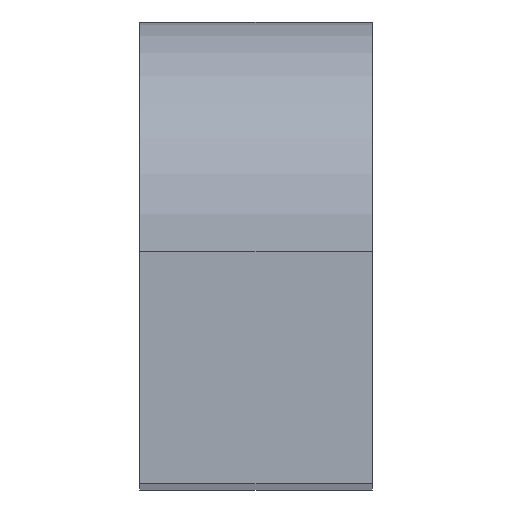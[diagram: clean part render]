
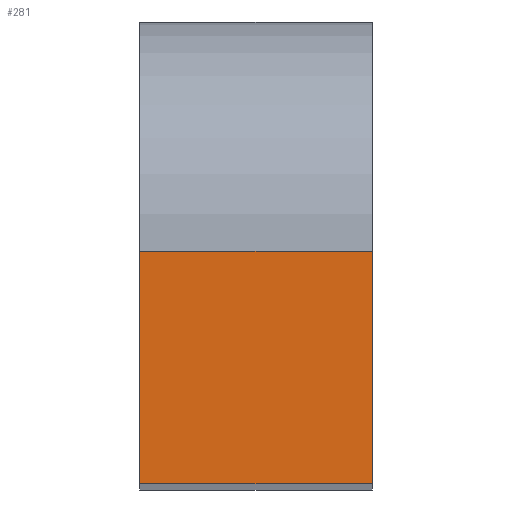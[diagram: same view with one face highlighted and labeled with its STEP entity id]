
A CAD part, top view. The second image highlights one B-rep face of the part: STEP entity #281.
In plain terms, the highlighted planar face has unit normal (0, 0, 1).
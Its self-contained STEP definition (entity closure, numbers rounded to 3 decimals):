
#5 = DIRECTION ( 'NONE',  ( 0., 1., 0. ) ) ;
#7 = LINE ( 'NONE', #258, #140 ) ;
#9 = FACE_OUTER_BOUND ( 'NONE', #143, .T. ) ;
#51 = DIRECTION ( 'NONE',  ( 1., 0., 0. ) ) ;
#57 = ORIENTED_EDGE ( 'NONE', *, *, #269, .T. ) ;
#92 = ORIENTED_EDGE ( 'NONE', *, *, #282, .T. ) ;
#96 = VECTOR ( 'NONE', #321, 1000. ) ;
#98 = VECTOR ( 'NONE', #51, 1000. ) ;
#100 = CARTESIAN_POINT ( 'NONE',  ( 0., 0., 31. ) ) ;
#102 = DIRECTION ( 'NONE',  ( -1., 0., 0. ) ) ;
#104 = DIRECTION ( 'NONE',  ( 0., 0., -1. ) ) ;
#105 = EDGE_CURVE ( 'NONE', #188, #238, #265, .T. ) ;
#124 = LINE ( 'NONE', #168, #225 ) ;
#125 = PLANE ( 'NONE',  #152 ) ;
#128 = DIRECTION ( 'NONE',  ( -1., 0., 0. ) ) ;
#140 = VECTOR ( 'NONE', #102, 1000. ) ;
#143 = EDGE_LOOP ( 'NONE', ( #159, #92, #291, #57 ) ) ;
#151 = CARTESIAN_POINT ( 'NONE',  ( 2., 0., 31. ) ) ;
#152 = AXIS2_PLACEMENT_3D ( 'NONE', #100, #104, #128 ) ;
#159 = ORIENTED_EDGE ( 'NONE', *, *, #105, .T. ) ;
#168 = CARTESIAN_POINT ( 'NONE',  ( 2., 0., 31. ) ) ;
#171 = EDGE_CURVE ( 'NONE', #299, #288, #124, .T. ) ;
#188 = VERTEX_POINT ( 'NONE', #197 ) ;
#196 = CARTESIAN_POINT ( 'NONE',  ( 0., 0., 31. ) ) ;
#197 = CARTESIAN_POINT ( 'NONE',  ( 0., 2., 31. ) ) ;
#214 = CARTESIAN_POINT ( 'NONE',  ( 0., 0., 31. ) ) ;
#225 = VECTOR ( 'NONE', #5, 1000. ) ;
#226 = CARTESIAN_POINT ( 'NONE',  ( 0., 0., 31. ) ) ;
#238 = VERTEX_POINT ( 'NONE', #196 ) ;
#258 = CARTESIAN_POINT ( 'NONE',  ( 0., 2., 31. ) ) ;
#265 = LINE ( 'NONE', #214, #96 ) ;
#269 = EDGE_CURVE ( 'NONE', #288, #188, #7, .T. ) ;
#277 = LINE ( 'NONE', #226, #98 ) ;
#281 = ADVANCED_FACE ( 'NONE', ( #9 ), #125, .F. ) ;
#282 = EDGE_CURVE ( 'NONE', #238, #299, #277, .T. ) ;
#288 = VERTEX_POINT ( 'NONE', #307 ) ;
#291 = ORIENTED_EDGE ( 'NONE', *, *, #171, .T. ) ;
#299 = VERTEX_POINT ( 'NONE', #151 ) ;
#307 = CARTESIAN_POINT ( 'NONE',  ( 2., 2., 31. ) ) ;
#321 = DIRECTION ( 'NONE',  ( 0., -1., 0. ) ) ;
